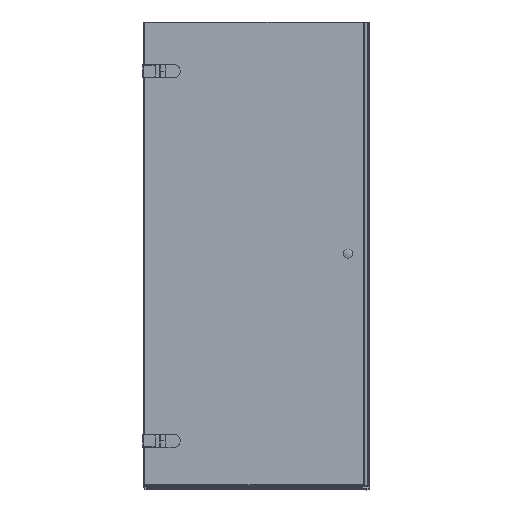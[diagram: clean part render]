
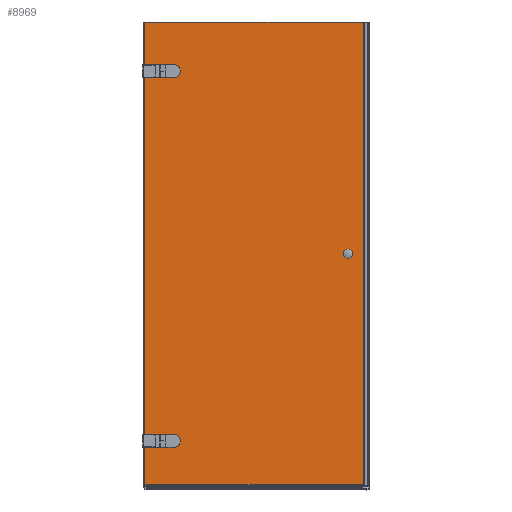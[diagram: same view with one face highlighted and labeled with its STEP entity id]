
A CAD part, front view. The second image highlights one B-rep face of the part: STEP entity #8969.
In plain terms, the highlighted planar face has unit normal (0, -1, 0).
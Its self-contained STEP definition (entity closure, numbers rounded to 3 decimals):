
#96=LINE($,#12243,#1014);
#99=LINE($,#12249,#1017);
#103=LINE($,#12259,#1021);
#146=LINE($,#12371,#1064);
#149=LINE($,#12377,#1067);
#153=LINE($,#12387,#1071);
#557=LINE($,#13475,#1475);
#591=LINE($,#13573,#1509);
#916=LINE($,#15002,#1834);
#921=LINE($,#15012,#1839);
#1014=VECTOR($,#9855,52.);
#1017=VECTOR($,#9860,23.);
#1021=VECTOR($,#9872,23.);
#1064=VECTOR($,#9979,52.);
#1067=VECTOR($,#9984,23.);
#1071=VECTOR($,#9996,23.);
#1475=VECTOR($,#10904,1975.4);
#1509=VECTOR($,#11000,939.8);
#1834=VECTOR($,#11925,1975.4);
#1839=VECTOR($,#11940,939.8);
#1948=FACE_BOUND($,#3021,.T.);
#1949=FACE_BOUND($,#3022,.T.);
#1950=FACE_BOUND($,#3023,.T.);
#3021=EDGE_LOOP($,(#7308,#7309,#7310,#7311));
#3022=EDGE_LOOP($,(#7312,#7313,#7314,#7315));
#3023=EDGE_LOOP($,(#7316,#7317,#7318,#7319));
#3089=CIRCLE($,#9064,26.);
#3101=CIRCLE($,#9101,26.);
#3332=VERTEX_POINT($,#12240);
#3333=VERTEX_POINT($,#12242);
#3335=VERTEX_POINT($,#12248);
#3337=VERTEX_POINT($,#12254);
#3373=VERTEX_POINT($,#12368);
#3374=VERTEX_POINT($,#12370);
#3376=VERTEX_POINT($,#12376);
#3378=VERTEX_POINT($,#12382);
#3698=VERTEX_POINT($,#13472);
#3699=VERTEX_POINT($,#13474);
#3728=VERTEX_POINT($,#13572);
#4040=VERTEX_POINT($,#14988);
#4075=EDGE_CURVE($,#3333,#3332,#96,.T.);
#4078=EDGE_CURVE($,#3335,#3333,#99,.T.);
#4081=EDGE_CURVE($,#3337,#3335,#3089,.T.);
#4084=EDGE_CURVE($,#3332,#3337,#103,.T.);
#4137=EDGE_CURVE($,#3374,#3373,#146,.T.);
#4140=EDGE_CURVE($,#3376,#3374,#149,.T.);
#4143=EDGE_CURVE($,#3378,#3376,#3101,.T.);
#4146=EDGE_CURVE($,#3373,#3378,#153,.T.);
#4632=EDGE_CURVE($,#3699,#3698,#557,.T.);
#4682=EDGE_CURVE($,#3699,#3728,#591,.T.);
#5171=EDGE_CURVE($,#4040,#3728,#916,.T.);
#5176=EDGE_CURVE($,#3698,#4040,#921,.T.);
#7308=ORIENTED_EDGE($,*,*,#4075,.T.);
#7309=ORIENTED_EDGE($,*,*,#4084,.T.);
#7310=ORIENTED_EDGE($,*,*,#4081,.T.);
#7311=ORIENTED_EDGE($,*,*,#4078,.T.);
#7312=ORIENTED_EDGE($,*,*,#4137,.T.);
#7313=ORIENTED_EDGE($,*,*,#4146,.T.);
#7314=ORIENTED_EDGE($,*,*,#4143,.T.);
#7315=ORIENTED_EDGE($,*,*,#4140,.T.);
#7316=ORIENTED_EDGE($,*,*,#4632,.T.);
#7317=ORIENTED_EDGE($,*,*,#5176,.T.);
#7318=ORIENTED_EDGE($,*,*,#5171,.T.);
#7319=ORIENTED_EDGE($,*,*,#4682,.F.);
#7977=PLANE($,#9713);
#8969=ADVANCED_FACE($,(#1948,#1949,#1950),#7977,.T.);
#9064=AXIS2_PLACEMENT_3D($,#12255,#9866,#9867);
#9101=AXIS2_PLACEMENT_3D($,#12383,#9990,#9991);
#9713=AXIS2_PLACEMENT_3D($,#15054,#12004,#12005);
#9855=DIRECTION($,(0.,0.,1.));
#9860=DIRECTION($,(-1.,0.,0.));
#9866=DIRECTION('center_axis',(0.,1.,0.));
#9867=DIRECTION('ref_axis',(0.,0.,
1.));
#9872=DIRECTION($,(1.,0.,0.));
#9979=DIRECTION($,(0.,0.,1.));
#9984=DIRECTION($,(-1.,0.,0.));
#9990=DIRECTION('center_axis',(0.,1.,0.));
#9991=DIRECTION('ref_axis',(0.,0.,
1.));
#9996=DIRECTION($,(1.,0.,0.));
#10904=DIRECTION($,(0.,0.,-1.));
#11000=DIRECTION($,(1.,0.,0.));
#11925=DIRECTION($,(0.,0.,1.));
#11940=DIRECTION($,(1.,0.,0.));
#12004=DIRECTION('center_axis',(0.,-1.,0.));
#12005=DIRECTION('ref_axis',(1.,0.,0.));
#12240=CARTESIAN_POINT('',(623.805,5.956,-279.056));
#12242=CARTESIAN_POINT('',(623.805,5.956,-331.056));
#12243=CARTESIAN_POINT($,(623.805,5.956,-413.056));
#12248=CARTESIAN_POINT('',(646.805,5.956,-331.056));
#12249=CARTESIAN_POINT($,(581.305,5.956,-331.056));
#12254=CARTESIAN_POINT('',(646.805,5.956,-279.056));
#12255=CARTESIAN_POINT('Origin',(646.805,5.956,-305.056));
#12259=CARTESIAN_POINT($,(569.805,5.956,-279.056));
#12368=CARTESIAN_POINT('',(623.805,5.956,1300.944));
#12370=CARTESIAN_POINT('',(623.805,5.956,1248.944));
#12371=CARTESIAN_POINT($,(623.805,5.956,376.944));
#12376=CARTESIAN_POINT('',(646.805,5.956,1248.944));
#12377=CARTESIAN_POINT($,(581.305,5.956,1248.944));
#12382=CARTESIAN_POINT('',(646.805,5.956,1300.944));
#12383=CARTESIAN_POINT('Origin',(646.805,5.956,1274.944));
#12387=CARTESIAN_POINT($,(569.805,5.956,1300.944));
#13472=CARTESIAN_POINT('',(520.505,5.956,-490.456));
#13474=CARTESIAN_POINT('',(520.505,5.956,1484.944));
#13475=CARTESIAN_POINT($,(520.505,5.956,494.944));
#13572=CARTESIAN_POINT('',(1460.305,5.956,1484.944));
#13573=CARTESIAN_POINT($,(515.805,5.956,1484.944));
#14988=CARTESIAN_POINT('',(1460.305,5.956,-490.456));
#15002=CARTESIAN_POINT($,(1460.305,5.956,-495.056));
#15012=CARTESIAN_POINT($,(515.805,5.956,-490.456));
#15054=CARTESIAN_POINT('Origin',(515.805,5.956,-495.056));
